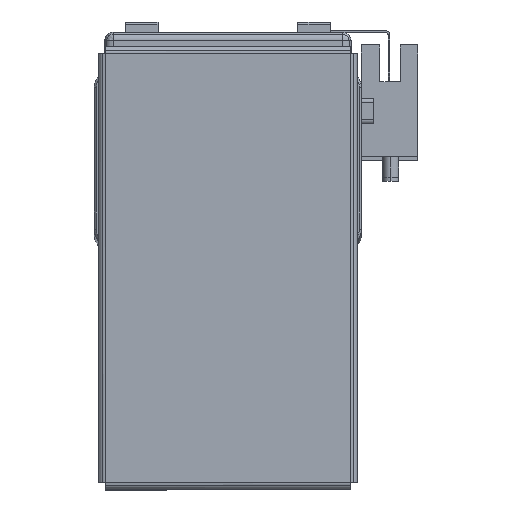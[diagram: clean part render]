
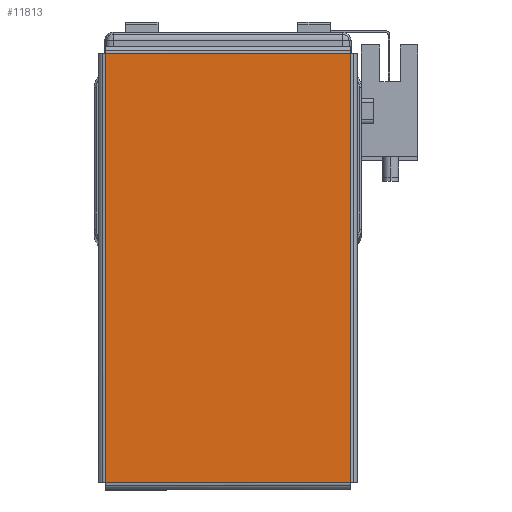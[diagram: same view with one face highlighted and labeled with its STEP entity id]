
A CAD part, top view. The second image highlights one B-rep face of the part: STEP entity #11813.
In plain terms, the highlighted planar face has unit normal (0, 0, 1) as drawn and (0, -1, 0) by its records, which use the part's own axes.
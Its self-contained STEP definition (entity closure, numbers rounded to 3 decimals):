
#7136 = ORIENTED_EDGE ( 'NONE', *, *, #29016, .T. ) ;
#7159 = ORIENTED_EDGE ( 'NONE', *, *, #28841, .T. ) ;
#7168 = ORIENTED_EDGE ( 'NONE', *, *, #28831, .T. ) ;
#7208 = ORIENTED_EDGE ( 'NONE', *, *, #28885, .T. ) ;
#10937 = EDGE_LOOP ( 'NONE', ( #7159, #7208, #7136, #7168 ) ) ;
#11813 = ADVANCED_FACE ( 'NONE', ( #23699 ), #24958, .F. ) ;
#15443 = CARTESIAN_POINT ( 'NONE',  ( 52.263, -1., -29.893 ) ) ;
#15444 = DIRECTION ( 'NONE',  ( 0., 0., 1. ) ) ;
#15455 = CARTESIAN_POINT ( 'NONE',  ( 52.293, -1., 29.863 ) ) ;
#15485 = DIRECTION ( 'NONE',  ( -1., 0., 0. ) ) ;
#15549 = CARTESIAN_POINT ( 'NONE',  ( -52.263, -1., 29.893 ) ) ;
#15555 = DIRECTION ( 'NONE',  ( 0., 0., -1. ) ) ;
#15940 = CARTESIAN_POINT ( 'NONE',  ( -52.293, -1., -29.863 ) ) ;
#15953 = DIRECTION ( 'NONE',  ( 1., 0., 0. ) ) ;
#18534 = LINE ( 'NONE', #15443, #18548 ) ;
#18548 = VECTOR ( 'NONE', #15444, 1000. ) ;
#18552 = LINE ( 'NONE', #15455, #18561 ) ;
#18561 = VECTOR ( 'NONE', #15485, 1000. ) ;
#18596 = LINE ( 'NONE', #15549, #18625 ) ;
#18625 = VECTOR ( 'NONE', #15555, 1000. ) ;
#18786 = LINE ( 'NONE', #15940, #18788 ) ;
#18788 = VECTOR ( 'NONE', #15953, 1000. ) ;
#21484 = CARTESIAN_POINT ( 'NONE',  ( -52.263, -1., 29.863 ) ) ;
#21530 = CARTESIAN_POINT ( 'NONE',  ( 52.263, -1., 29.863 ) ) ;
#21574 = CARTESIAN_POINT ( 'NONE',  ( 52.263, -1., -29.863 ) ) ;
#21594 = CARTESIAN_POINT ( 'NONE',  ( -52.263, -1., -29.863 ) ) ;
#23699 = FACE_OUTER_BOUND ( 'NONE', #10937, .T. ) ;
#24910 = DIRECTION ( 'NONE',  ( 0., 0., 1. ) ) ;
#24958 = PLANE ( 'NONE',  #30768 ) ;
#24959 = CARTESIAN_POINT ( 'NONE',  ( 0., -1., 0. ) ) ;
#24960 = DIRECTION ( 'NONE',  ( 0., 1., 0. ) ) ;
#28831 = EDGE_CURVE ( 'NONE', #32747, #32773, #18534, .T. ) ;
#28841 = EDGE_CURVE ( 'NONE', #32773, #32670, #18552, .T. ) ;
#28885 = EDGE_CURVE ( 'NONE', #32670, #32784, #18596, .T. ) ;
#29016 = EDGE_CURVE ( 'NONE', #32784, #32747, #18786, .T. ) ;
#30768 = AXIS2_PLACEMENT_3D ( 'NONE', #24959, #24960, #24910 ) ;
#32670 = VERTEX_POINT ( 'NONE', #21484 ) ;
#32747 = VERTEX_POINT ( 'NONE', #21574 ) ;
#32773 = VERTEX_POINT ( 'NONE', #21530 ) ;
#32784 = VERTEX_POINT ( 'NONE', #21594 ) ;
